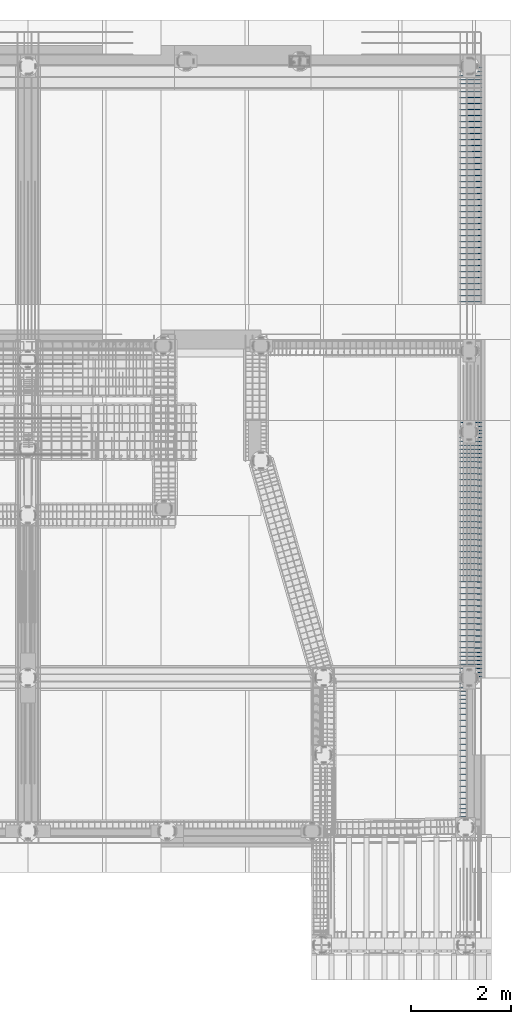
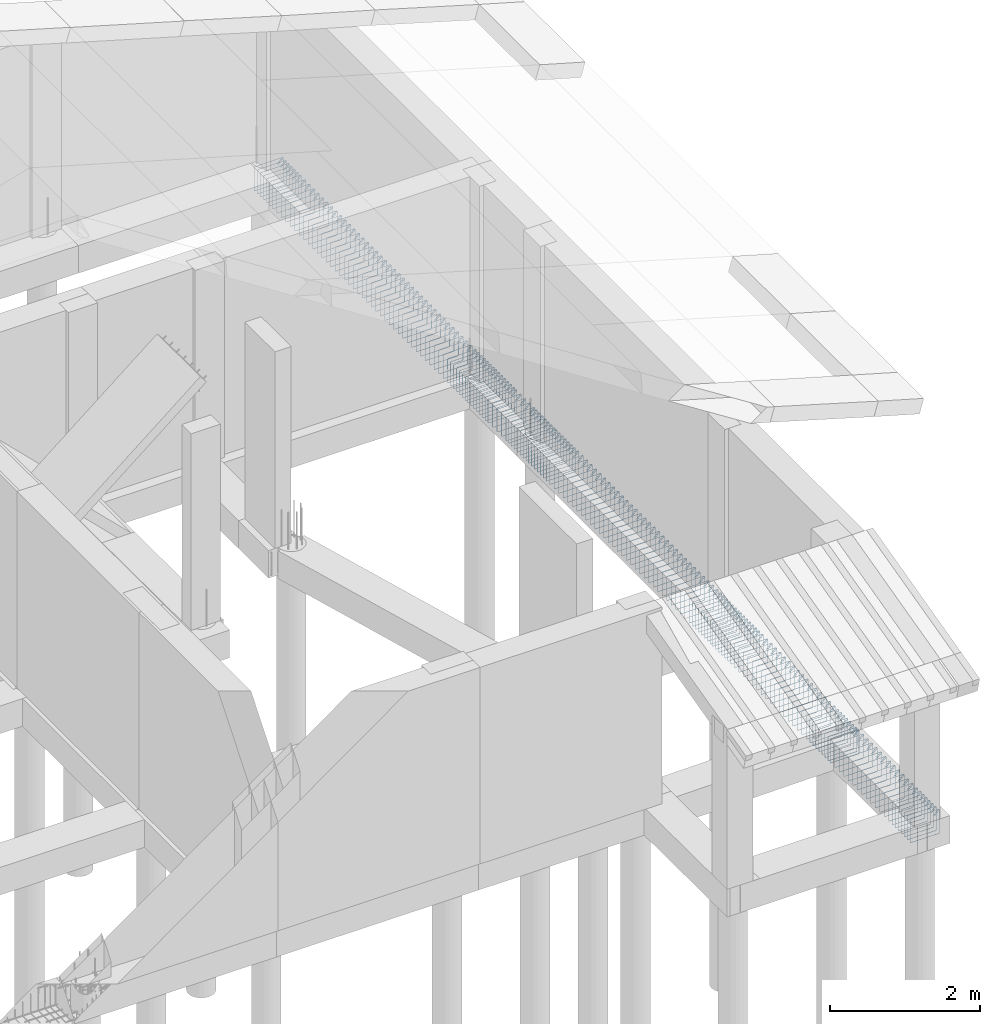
# One storey, part 11 of 13: 1 reinforcing bar.
"""IFC4 building model written with IfcOpenShell, lengths in metres."""

from ifc_helpers import new_model, entity, si_unit, origin_with_axes, place, context, project, spatial, source, transform, mapped, element, save


model = new_model("IFC4")

# Units and contexts
model_context = context("Model", 3, precision=1e-05, world=origin_with_axes())
ifc_project = project(units=[si_unit("LENGTHUNIT", "METRE"), si_unit("AREAUNIT", "SQUARE_METRE"), si_unit("VOLUMEUNIT", "CUBIC_METRE"), si_unit("MASSUNIT", "GRAM", prefix="KILO"), si_unit("TIMEUNIT", "SECOND"), si_unit("PLANEANGLEUNIT", "RADIAN"), si_unit("SOLIDANGLEUNIT", "STERADIAN"), si_unit("THERMODYNAMICTEMPERATUREUNIT", "DEGREE_CELSIUS")], contexts=[model_context])

# Site, building, storey
placement_1 = place(None, origin_with_axes())
site = spatial("IfcSite", under=ifc_project, at=placement_1, Name="Italia", CompositionType="ELEMENT")
building = spatial("IfcBuilding", under=site, at=placement_1, Name="Villa", CompositionType="ELEMENT")
storey = spatial("IfcBuildingStorey", under=building, at=placement_1, Name="Storey 0", CompositionType="ELEMENT", Elevation=0.0)

# Reinforcing bar
shared_shape = source(origin_with_axes(), model_context, "Body", "AdvancedSweptSolid", [
    entity("IfcSweptDiskSolid", entity("IfcIndexedPolyCurve", entity("IfcCartesianPointList3D", [[18.0903, 0.242884, -0.120711], [18.1581, 0.242427, -0.0529289], [18.161, 0.242391, -0.0458579], [18.161, 0.242358, -0.039], [18.1602, 0.24234, -0.0351732], [18.1581, 0.242321, -0.0319289], [18.1548, 0.242302, -0.0297612], [18.151, 0.242284, -0.029], [17.729, 0.240274, -0.029], [17.7252, 0.240255, -0.0297612], [17.7219, 0.240237, -0.0319289], [17.7198, 0.240218, -0.0351732], [17.719, 0.2402, -0.039], [17.719, 0.238428, -0.411], [17.7198, 0.238409, -0.414827], [17.7219, 0.238391, -0.418071], [17.7252, 0.238372, -0.420239], [17.729, 0.238354, -0.421], [18.151, 0.236344, -0.421], [18.1548, 0.236325, -0.420239], [18.1581, 0.236307, -0.418071], [18.1602, 0.236288, -0.414827], [18.161, 0.23627, -0.411], [18.161, 0.234498, -0.039], [18.1602, 0.234479, -0.0351732], [18.1581, 0.234461, -0.0319289], [18.1548, 0.234442, -0.0297612], [18.151, 0.234424, -0.029], [18.1441, 0.234391, -0.029], [18.1371, 0.234354, -0.0319289], [18.0693, 0.233898, -0.0997114]]), [entity("IfcLineIndex", [1, 2]), entity("IfcLineIndex", [2, 3]), entity("IfcLineIndex", [3, 4]), entity("IfcLineIndex", [4, 5]), entity("IfcLineIndex", [5, 6]), entity("IfcLineIndex", [6, 7]), entity("IfcLineIndex", [7, 8]), entity("IfcLineIndex", [8, 9]), entity("IfcLineIndex", [9, 10]), entity("IfcLineIndex", [10, 11]), entity("IfcLineIndex", [11, 12]), entity("IfcLineIndex", [12, 13]), entity("IfcLineIndex", [13, 14]), entity("IfcLineIndex", [14, 15]), entity("IfcLineIndex", [15, 16]), entity("IfcLineIndex", [16, 17]), entity("IfcLineIndex", [17, 18]), entity("IfcLineIndex", [18, 19]), entity("IfcLineIndex", [19, 20]), entity("IfcLineIndex", [20, 21]), entity("IfcLineIndex", [21, 22]), entity("IfcLineIndex", [22, 23]), entity("IfcLineIndex", [23, 24]), entity("IfcLineIndex", [24, 25]), entity("IfcLineIndex", [25, 26]), entity("IfcLineIndex", [26, 27]), entity("IfcLineIndex", [27, 28]), entity("IfcLineIndex", [28, 29]), entity("IfcLineIndex", [29, 30]), entity("IfcLineIndex", [30, 31])], False), 0.004),
])
placement_2 = place(placement_1, origin_with_axes())
reinforcing_bar_placement = place(placement_2, origin_with_axes())
element("IfcReinforcingBar", 1, at=reinforcing_bar_placement, inside=storey, BarLength=1.8868, CrossSectionArea=5.0265e-05, NominalDiameter=0.008, context=model_context, shape_type="MappedRepresentation", body=[
    mapped(shared_shape, transform((0.0, 17.4978, 1.71363e-05), x_axis=(1.0, -3.70892e-05, 0.0), y_axis=(3.70883e-05, 1.0, -4.69772e-05), z_axis=(0.0, 4.69772e-05, 1.0), scale=1.0)),
    mapped(shared_shape, transform((4.95911e-05, 11.3236, -6.58333e-05), x_axis=(1.0, 0.000193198, 0.0), y_axis=(-0.000193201, 1.0, 0.000183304), z_axis=(0.0, -0.000183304, 1.0), scale=1.0)),
    mapped(shared_shape, transform((4.95911e-05, 11.4036, -6.58333e-05), x_axis=(1.0, 0.000193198, 0.0), y_axis=(-0.000193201, 1.0, 0.000183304), z_axis=(0.0, -0.000183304, 1.0), scale=1.0)),
    mapped(shared_shape, transform((4.95911e-05, 11.4836, -6.58333e-05), x_axis=(1.0, 0.000193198, 0.0), y_axis=(-0.000193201, 1.0, 0.000183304), z_axis=(0.0, -0.000183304, 1.0), scale=1.0)),
    mapped(shared_shape, transform((4.95911e-05, 11.5636, -6.58333e-05), x_axis=(1.0, 0.000193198, 0.0), y_axis=(-0.000193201, 1.0, 0.000183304), z_axis=(0.0, -0.000183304, 1.0), scale=1.0)),
    mapped(shared_shape, transform((4.95911e-05, 11.2626, -6.58333e-05), x_axis=(1.0, 0.000193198, 0.0), y_axis=(-0.000193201, 1.0, 0.000183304), z_axis=(0.0, -0.000183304, 1.0), scale=1.0)),
    mapped(shared_shape, transform((4.95911e-05, 8.8951, -6.58333e-05), x_axis=(1.0, 0.000193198, 0.0), y_axis=(-0.000193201, 1.0, 0.000183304), z_axis=(0.0, -0.000183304, 1.0), scale=1.0)),
    mapped(shared_shape, transform((4.95911e-05, 9.0151, -6.58333e-05), x_axis=(1.0, 0.000193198, 0.0), y_axis=(-0.000193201, 1.0, 0.000183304), z_axis=(0.0, -0.000183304, 1.0), scale=1.0)),
    mapped(shared_shape, transform((4.95911e-05, 11.0226, -6.58333e-05), x_axis=(1.0, 0.000193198, 0.0), y_axis=(-0.000193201, 1.0, 0.000183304), z_axis=(0.0, -0.000183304, 1.0), scale=1.0)),
    mapped(shared_shape, transform((4.95911e-05, 11.1426, -6.58333e-05), x_axis=(1.0, 0.000193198, 0.0), y_axis=(-0.000193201, 1.0, 0.000183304), z_axis=(0.0, -0.000183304, 1.0), scale=1.0)),
    mapped(shared_shape, transform((4.95911e-05, 11.6436, -6.58333e-05), x_axis=(1.0, 0.000193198, 0.0), y_axis=(-0.000193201, 1.0, 0.000183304), z_axis=(0.0, -0.000183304, 1.0), scale=1.0)),
    mapped(shared_shape, transform((4.95911e-05, 12.1016, -6.58333e-05), x_axis=(1.0, 0.000193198, 0.0), y_axis=(-0.000193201, 1.0, 0.000183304), z_axis=(0.0, -0.000183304, 1.0), scale=1.0)),
    mapped(shared_shape, transform((4.95911e-05, 12.1816, -6.58333e-05), x_axis=(1.0, 0.000193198, 0.0), y_axis=(-0.000193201, 1.0, 0.000183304), z_axis=(0.0, -0.000183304, 1.0), scale=1.0)),
    mapped(shared_shape, transform((4.95911e-05, 12.2616, -6.58333e-05), x_axis=(1.0, 0.000193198, 0.0), y_axis=(-0.000193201, 1.0, 0.000183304), z_axis=(0.0, -0.000183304, 1.0), scale=1.0)),
    mapped(shared_shape, transform((4.95911e-05, 12.3416, -6.58333e-05), x_axis=(1.0, 0.000193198, 0.0), y_axis=(-0.000193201, 1.0, 0.000183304), z_axis=(0.0, -0.000183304, 1.0), scale=1.0)),
    mapped(shared_shape, transform((4.95911e-05, 12.0216, -6.58333e-05), x_axis=(1.0, 0.000193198, 0.0), y_axis=(-0.000193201, 1.0, 0.000183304), z_axis=(0.0, -0.000183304, 1.0), scale=1.0)),
    mapped(shared_shape, transform((4.95911e-05, 11.7236, -6.58333e-05), x_axis=(1.0, 0.000193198, 0.0), y_axis=(-0.000193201, 1.0, 0.000183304), z_axis=(0.0, -0.000183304, 1.0), scale=1.0)),
    mapped(shared_shape, transform((4.95911e-05, 11.8036, -6.58333e-05), x_axis=(1.0, 0.000193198, 0.0), y_axis=(-0.000193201, 1.0, 0.000183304), z_axis=(0.0, -0.000183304, 1.0), scale=1.0)),
    mapped(shared_shape, transform((4.95911e-05, 11.8616, -6.58333e-05), x_axis=(1.0, 0.000193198, 0.0), y_axis=(-0.000193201, 1.0, 0.000183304), z_axis=(0.0, -0.000183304, 1.0), scale=1.0)),
    mapped(shared_shape, transform((4.95911e-05, 11.9416, -6.58333e-05), x_axis=(1.0, 0.000193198, 0.0), y_axis=(-0.000193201, 1.0, 0.000183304), z_axis=(0.0, -0.000183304, 1.0), scale=1.0)),
    mapped(shared_shape, transform((4.95911e-05, 12.4576, -6.58333e-05), x_axis=(1.0, 0.000193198, 0.0), y_axis=(-0.000193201, 1.0, 0.000183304), z_axis=(0.0, -0.000183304, 1.0), scale=1.0)),
    mapped(shared_shape, transform((4.95911e-05, 9.3751, -6.58333e-05), x_axis=(1.0, 0.000193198, 0.0), y_axis=(-0.000193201, 1.0, 0.000183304), z_axis=(0.0, -0.000183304, 1.0), scale=1.0)),
    mapped(shared_shape, transform((4.95911e-05, 9.4951, -6.58333e-05), x_axis=(1.0, 0.000193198, 0.0), y_axis=(-0.000193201, 1.0, 0.000183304), z_axis=(0.0, -0.000183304, 1.0), scale=1.0)),
    mapped(shared_shape, transform((4.95911e-05, 9.6151, -6.58333e-05), x_axis=(1.0, 0.000193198, 0.0), y_axis=(-0.000193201, 1.0, 0.000183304), z_axis=(0.0, -0.000183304, 1.0), scale=1.0)),
    mapped(shared_shape, transform((4.95911e-05, 9.7036, -6.58333e-05), x_axis=(1.0, 0.000193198, 0.0), y_axis=(-0.000193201, 1.0, 0.000183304), z_axis=(0.0, -0.000183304, 1.0), scale=1.0)),
    mapped(shared_shape, transform((4.95911e-05, 9.2551, -6.58333e-05), x_axis=(1.0, 0.000193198, 0.0), y_axis=(-0.000193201, 1.0, 0.000183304), z_axis=(0.0, -0.000183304, 1.0), scale=1.0)),
    mapped(shared_shape, transform((4.95911e-05, 10.7216, -6.58333e-05), x_axis=(1.0, 0.000193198, 0.0), y_axis=(-0.000193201, 1.0, 0.000183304), z_axis=(0.0, -0.000183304, 1.0), scale=1.0)),
    mapped(shared_shape, transform((4.95911e-05, 10.7826, -6.58333e-05), x_axis=(1.0, 0.000193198, 0.0), y_axis=(-0.000193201, 1.0, 0.000183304), z_axis=(0.0, -0.000183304, 1.0), scale=1.0)),
    mapped(shared_shape, transform((4.95911e-05, 10.9026, -6.58333e-05), x_axis=(1.0, 0.000193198, 0.0), y_axis=(-0.000193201, 1.0, 0.000183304), z_axis=(0.0, -0.000183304, 1.0), scale=1.0)),
    mapped(shared_shape, transform((4.95911e-05, 9.1351, -6.58333e-05), x_axis=(1.0, 0.000193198, 0.0), y_axis=(-0.000193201, 1.0, 0.000183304), z_axis=(0.0, -0.000183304, 1.0), scale=1.0)),
    mapped(shared_shape, transform((4.95911e-05, 9.7836, -6.58333e-05), x_axis=(1.0, 0.000193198, 0.0), y_axis=(-0.000193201, 1.0, 0.000183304), z_axis=(0.0, -0.000183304, 1.0), scale=1.0)),
    mapped(shared_shape, transform((4.95911e-05, 10.2416, -6.58333e-05), x_axis=(1.0, 0.000193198, 0.0), y_axis=(-0.000193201, 1.0, 0.000183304), z_axis=(0.0, -0.000183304, 1.0), scale=1.0)),
    mapped(shared_shape, transform((4.95911e-05, 10.3216, -6.58333e-05), x_axis=(1.0, 0.000193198, 0.0), y_axis=(-0.000193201, 1.0, 0.000183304), z_axis=(0.0, -0.000183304, 1.0), scale=1.0)),
    mapped(shared_shape, transform((4.95911e-05, 10.4016, -6.58333e-05), x_axis=(1.0, 0.000193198, 0.0), y_axis=(-0.000193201, 1.0, 0.000183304), z_axis=(0.0, -0.000183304, 1.0), scale=1.0)),
    mapped(shared_shape, transform((4.95911e-05, 10.4816, -6.58333e-05), x_axis=(1.0, 0.000193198, 0.0), y_axis=(-0.000193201, 1.0, 0.000183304), z_axis=(0.0, -0.000183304, 1.0), scale=1.0)),
    mapped(shared_shape, transform((4.95911e-05, 10.1836, -6.58333e-05), x_axis=(1.0, 0.000193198, 0.0), y_axis=(-0.000193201, 1.0, 0.000183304), z_axis=(0.0, -0.000183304, 1.0), scale=1.0)),
    mapped(shared_shape, transform((4.95911e-05, 9.8636, -6.58333e-05), x_axis=(1.0, 0.000193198, 0.0), y_axis=(-0.000193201, 1.0, 0.000183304), z_axis=(0.0, -0.000183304, 1.0), scale=1.0)),
    mapped(shared_shape, transform((4.95911e-05, 9.9436, -6.58333e-05), x_axis=(1.0, 0.000193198, 0.0), y_axis=(-0.000193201, 1.0, 0.000183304), z_axis=(0.0, -0.000183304, 1.0), scale=1.0)),
    mapped(shared_shape, transform((4.95911e-05, 10.0236, -6.58333e-05), x_axis=(1.0, 0.000193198, 0.0), y_axis=(-0.000193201, 1.0, 0.000183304), z_axis=(0.0, -0.000183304, 1.0), scale=1.0)),
    mapped(shared_shape, transform((4.95911e-05, 10.1036, -6.58333e-05), x_axis=(1.0, 0.000193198, 0.0), y_axis=(-0.000193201, 1.0, 0.000183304), z_axis=(0.0, -0.000183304, 1.0), scale=1.0)),
    mapped(shared_shape, transform((4.95911e-05, 10.5616, -6.58333e-05), x_axis=(1.0, 0.000193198, 0.0), y_axis=(-0.000193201, 1.0, 0.000183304), z_axis=(0.0, -0.000183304, 1.0), scale=1.0)),
    mapped(shared_shape, transform((4.95911e-05, 15.5776, -6.58333e-05), x_axis=(1.0, 0.000193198, 0.0), y_axis=(-0.000193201, 1.0, 0.000183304), z_axis=(0.0, -0.000183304, 1.0), scale=1.0)),
    mapped(shared_shape, transform((4.95911e-05, 15.6976, -6.58333e-05), x_axis=(1.0, 0.000193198, 0.0), y_axis=(-0.000193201, 1.0, 0.000183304), z_axis=(0.0, -0.000183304, 1.0), scale=1.0)),
    mapped(shared_shape, transform((0.0, 15.8218, 1.71363e-05), x_axis=(1.0, -3.70892e-05, 0.0), y_axis=(3.70883e-05, 1.0, -4.69772e-05), z_axis=(0.0, 4.69772e-05, 1.0), scale=1.0)),
    mapped(shared_shape, transform((0.0, 15.9418, 1.71363e-05), x_axis=(1.0, -3.70892e-05, 0.0), y_axis=(3.70883e-05, 1.0, -4.69772e-05), z_axis=(0.0, 4.69772e-05, 1.0), scale=1.0)),
    mapped(shared_shape, transform((4.95911e-05, 15.4576, -6.58333e-05), x_axis=(1.0, 0.000193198, 0.0), y_axis=(-0.000193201, 1.0, 0.000183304), z_axis=(0.0, -0.000183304, 1.0), scale=1.0)),
    mapped(shared_shape, transform((4.95911e-05, 10.6416, -6.58333e-05), x_axis=(1.0, 0.000193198, 0.0), y_axis=(-0.000193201, 1.0, 0.000183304), z_axis=(0.0, -0.000183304, 1.0), scale=1.0)),
    mapped(shared_shape, transform((4.95911e-05, 12.5776, -6.58333e-05), x_axis=(1.0, 0.000193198, 0.0), y_axis=(-0.000193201, 1.0, 0.000183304), z_axis=(0.0, -0.000183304, 1.0), scale=1.0)),
    mapped(shared_shape, transform((4.95911e-05, 12.6976, -6.58333e-05), x_axis=(1.0, 0.000193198, 0.0), y_axis=(-0.000193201, 1.0, 0.000183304), z_axis=(0.0, -0.000183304, 1.0), scale=1.0)),
    mapped(shared_shape, transform((4.95911e-05, 12.8176, -6.58333e-05), x_axis=(1.0, 0.000193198, 0.0), y_axis=(-0.000193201, 1.0, 0.000183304), z_axis=(0.0, -0.000183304, 1.0), scale=1.0)),
    mapped(shared_shape, transform((0.0, 16.0618, 1.71363e-05), x_axis=(1.0, -3.70892e-05, 0.0), y_axis=(3.70883e-05, 1.0, -4.69772e-05), z_axis=(0.0, 4.69772e-05, 1.0), scale=1.0)),
    mapped(shared_shape, transform((0.0, 16.7818, 1.71363e-05), x_axis=(1.0, -3.70892e-05, 0.0), y_axis=(3.70883e-05, 1.0, -4.69772e-05), z_axis=(0.0, 4.69772e-05, 1.0), scale=1.0)),
    mapped(shared_shape, transform((0.0, 16.9018, 1.71363e-05), x_axis=(1.0, -3.70892e-05, 0.0), y_axis=(3.70883e-05, 1.0, -4.69772e-05), z_axis=(0.0, 4.69772e-05, 1.0), scale=1.0)),
    mapped(shared_shape, transform((0.0, 17.0178, 1.71363e-05), x_axis=(1.0, -3.70892e-05, 0.0), y_axis=(3.70883e-05, 1.0, -4.69772e-05), z_axis=(0.0, 4.69772e-05, 1.0), scale=1.0)),
    mapped(shared_shape, transform((0.0, 17.0978, 1.71363e-05), x_axis=(1.0, -3.70892e-05, 0.0), y_axis=(3.70883e-05, 1.0, -4.69772e-05), z_axis=(0.0, 4.69772e-05, 1.0), scale=1.0)),
    mapped(shared_shape, transform((0.0, 16.6618, 1.71363e-05), x_axis=(1.0, -3.70892e-05, 0.0), y_axis=(3.70883e-05, 1.0, -4.69772e-05), z_axis=(0.0, 4.69772e-05, 1.0), scale=1.0)),
    mapped(shared_shape, transform((0.0, 16.1818, 1.71363e-05), x_axis=(1.0, -3.70892e-05, 0.0), y_axis=(3.70883e-05, 1.0, -4.69772e-05), z_axis=(0.0, 4.69772e-05, 1.0), scale=1.0)),
    mapped(shared_shape, transform((0.0, 16.3018, 1.71363e-05), x_axis=(1.0, -3.70892e-05, 0.0), y_axis=(3.70883e-05, 1.0, -4.69772e-05), z_axis=(0.0, 4.69772e-05, 1.0), scale=1.0)),
    mapped(shared_shape, transform((0.0, 16.4218, 1.71363e-05), x_axis=(1.0, -3.70892e-05, 0.0), y_axis=(3.70883e-05, 1.0, -4.69772e-05), z_axis=(0.0, 4.69772e-05, 1.0), scale=1.0)),
    mapped(shared_shape, transform((0.0, 16.5418, 1.71363e-05), x_axis=(1.0, -3.70892e-05, 0.0), y_axis=(3.70883e-05, 1.0, -4.69772e-05), z_axis=(0.0, 4.69772e-05, 1.0), scale=1.0)),
    mapped(shared_shape, transform((0.0, 17.1778, 1.71363e-05), x_axis=(1.0, -3.70892e-05, 0.0), y_axis=(3.70883e-05, 1.0, -4.69772e-05), z_axis=(0.0, 4.69772e-05, 1.0), scale=1.0)),
    mapped(shared_shape, transform((4.95911e-05, 12.9376, -6.58333e-05), x_axis=(1.0, 0.000193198, 0.0), y_axis=(-0.000193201, 1.0, 0.000183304), z_axis=(0.0, -0.000183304, 1.0), scale=1.0)),
    mapped(shared_shape, transform((4.95911e-05, 13.0576, -6.58333e-05), x_axis=(1.0, 0.000193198, 0.0), y_axis=(-0.000193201, 1.0, 0.000183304), z_axis=(0.0, -0.000183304, 1.0), scale=1.0)),
    mapped(shared_shape, transform((4.95911e-05, 13.1776, -6.58333e-05), x_axis=(1.0, 0.000193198, 0.0), y_axis=(-0.000193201, 1.0, 0.000183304), z_axis=(0.0, -0.000183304, 1.0), scale=1.0)),
    mapped(shared_shape, transform((4.95911e-05, 13.2976, -6.58333e-05), x_axis=(1.0, 0.000193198, 0.0), y_axis=(-0.000193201, 1.0, 0.000183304), z_axis=(0.0, -0.000183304, 1.0), scale=1.0)),
    mapped(shared_shape, transform((4.95911e-05, 15.3376, -6.58333e-05), x_axis=(1.0, 0.000193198, 0.0), y_axis=(-0.000193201, 1.0, 0.000183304), z_axis=(0.0, -0.000183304, 1.0), scale=1.0)),
    mapped(shared_shape, transform((0.0, 17.2578, 1.71363e-05), x_axis=(1.0, -3.70892e-05, 0.0), y_axis=(3.70883e-05, 1.0, -4.69772e-05), z_axis=(0.0, 4.69772e-05, 1.0), scale=1.0)),
    mapped(shared_shape, transform((0.0, 17.3378, 1.71363e-05), x_axis=(1.0, -3.70892e-05, 0.0), y_axis=(3.70883e-05, 1.0, -4.69772e-05), z_axis=(0.0, 4.69772e-05, 1.0), scale=1.0)),
    mapped(shared_shape, transform((4.95911e-05, 15.0976, -6.58333e-05), x_axis=(1.0, 0.000193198, 0.0), y_axis=(-0.000193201, 1.0, 0.000183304), z_axis=(0.0, -0.000183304, 1.0), scale=1.0)),
    mapped(shared_shape, transform((4.95911e-05, 15.2176, -6.58333e-05), x_axis=(1.0, 0.000193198, 0.0), y_axis=(-0.000193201, 1.0, 0.000183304), z_axis=(0.0, -0.000183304, 1.0), scale=1.0)),
    mapped(shared_shape, transform((4.95911e-05, 13.4176, -6.58333e-05), x_axis=(1.0, 0.000193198, 0.0), y_axis=(-0.000193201, 1.0, 0.000183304), z_axis=(0.0, -0.000183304, 1.0), scale=1.0)),
    mapped(shared_shape, transform((4.95911e-05, 14.1376, -6.58333e-05), x_axis=(1.0, 0.000193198, 0.0), y_axis=(-0.000193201, 1.0, 0.000183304), z_axis=(0.0, -0.000183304, 1.0), scale=1.0)),
    mapped(shared_shape, transform((4.95911e-05, 14.2576, -6.58333e-05), x_axis=(1.0, 0.000193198, 0.0), y_axis=(-0.000193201, 1.0, 0.000183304), z_axis=(0.0, -0.000183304, 1.0), scale=1.0)),
    mapped(shared_shape, transform((4.95911e-05, 14.3776, -6.58333e-05), x_axis=(1.0, 0.000193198, 0.0), y_axis=(-0.000193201, 1.0, 0.000183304), z_axis=(0.0, -0.000183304, 1.0), scale=1.0)),
    mapped(shared_shape, transform((4.95911e-05, 14.4976, -6.58333e-05), x_axis=(1.0, 0.000193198, 0.0), y_axis=(-0.000193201, 1.0, 0.000183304), z_axis=(0.0, -0.000183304, 1.0), scale=1.0)),
    mapped(shared_shape, transform((4.95911e-05, 14.0176, -6.58333e-05), x_axis=(1.0, 0.000193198, 0.0), y_axis=(-0.000193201, 1.0, 0.000183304), z_axis=(0.0, -0.000183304, 1.0), scale=1.0)),
    mapped(shared_shape, transform((4.95911e-05, 13.5376, -6.58333e-05), x_axis=(1.0, 0.000193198, 0.0), y_axis=(-0.000193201, 1.0, 0.000183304), z_axis=(0.0, -0.000183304, 1.0), scale=1.0)),
    mapped(shared_shape, transform((4.95911e-05, 13.6576, -6.58333e-05), x_axis=(1.0, 0.000193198, 0.0), y_axis=(-0.000193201, 1.0, 0.000183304), z_axis=(0.0, -0.000183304, 1.0), scale=1.0)),
    mapped(shared_shape, transform((4.95911e-05, 13.7776, -6.58333e-05), x_axis=(1.0, 0.000193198, 0.0), y_axis=(-0.000193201, 1.0, 0.000183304), z_axis=(0.0, -0.000183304, 1.0), scale=1.0)),
    mapped(shared_shape, transform((4.95911e-05, 13.8976, -6.58333e-05), x_axis=(1.0, 0.000193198, 0.0), y_axis=(-0.000193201, 1.0, 0.000183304), z_axis=(0.0, -0.000183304, 1.0), scale=1.0)),
    mapped(shared_shape, transform((4.95911e-05, 14.6176, -6.58333e-05), x_axis=(1.0, 0.000193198, 0.0), y_axis=(-0.000193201, 1.0, 0.000183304), z_axis=(0.0, -0.000183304, 1.0), scale=1.0)),
    mapped(shared_shape, transform((0.0, 0.0800724, 0.0), x_axis=(1.0, 0.0, 0.0), y_axis=(0.0, 1.0, 0.0), z_axis=(0.0, 0.0, 1.0), scale=1.0)),
    mapped(shared_shape, transform((0.0, 2.20007, 0.0), x_axis=(1.0, 0.0, 0.0), y_axis=(0.0, 1.0, 0.0), z_axis=(0.0, 0.0, 1.0), scale=1.0)),
    mapped(shared_shape, transform((0.0, 2.28007, 0.0), x_axis=(1.0, 0.0, 0.0), y_axis=(0.0, 1.0, 0.0), z_axis=(0.0, 0.0, 1.0), scale=1.0)),
    mapped(shared_shape, transform((0.0, 2.36007, 0.0), x_axis=(1.0, 0.0, 0.0), y_axis=(0.0, 1.0, 0.0), z_axis=(0.0, 0.0, 1.0), scale=1.0)),
    mapped(shared_shape, transform((4.95911e-05, 8.7751, -6.58333e-05), x_axis=(1.0, 0.000193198, 0.0), y_axis=(-0.000193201, 1.0, 0.000183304), z_axis=(0.0, -0.000183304, 1.0), scale=1.0)),
    mapped(shared_shape, transform((4.95911e-05, 14.7376, -6.58333e-05), x_axis=(1.0, 0.000193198, 0.0), y_axis=(-0.000193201, 1.0, 0.000183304), z_axis=(0.0, -0.000183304, 1.0), scale=1.0)),
    mapped(shared_shape, transform((4.95911e-05, 14.8576, -6.58333e-05), x_axis=(1.0, 0.000193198, 0.0), y_axis=(-0.000193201, 1.0, 0.000183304), z_axis=(0.0, -0.000183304, 1.0), scale=1.0)),
    mapped(shared_shape, transform((4.95911e-05, 14.9776, -6.58333e-05), x_axis=(1.0, 0.000193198, 0.0), y_axis=(-0.000193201, 1.0, 0.000183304), z_axis=(0.0, -0.000183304, 1.0), scale=1.0)),
    mapped(shared_shape, transform((0.0, 17.4178, 1.71363e-05), x_axis=(1.0, -3.70892e-05, 0.0), y_axis=(3.70883e-05, 1.0, -4.69772e-05), z_axis=(0.0, 4.69772e-05, 1.0), scale=1.0)),
    mapped(shared_shape, transform((0.0, 2.44007, 0.0), x_axis=(1.0, 0.0, 0.0), y_axis=(0.0, 1.0, 0.0), z_axis=(0.0, 0.0, 1.0), scale=1.0)),
    mapped(shared_shape, transform((0.0, 3.01607, 0.0), x_axis=(1.0, 0.0, 0.0), y_axis=(0.0, 1.0, 0.0), z_axis=(0.0, 0.0, 1.0), scale=1.0)),
    mapped(shared_shape, transform((0.0, 3.13607, 0.0), x_axis=(1.0, 0.0, 0.0), y_axis=(0.0, 1.0, 0.0), z_axis=(0.0, 0.0, 1.0), scale=1.0)),
    mapped(shared_shape, transform((0.0, 3.25607, 0.0), x_axis=(1.0, 0.0, 0.0), y_axis=(0.0, 1.0, 0.0), z_axis=(0.0, 0.0, 1.0), scale=1.0)),
    mapped(shared_shape, transform((0.0, 3.37607, 0.0), x_axis=(1.0, 0.0, 0.0), y_axis=(0.0, 1.0, 0.0), z_axis=(0.0, 0.0, 1.0), scale=1.0)),
    mapped(shared_shape, transform((0.0, 2.89607, 0.0), x_axis=(1.0, 0.0, 0.0), y_axis=(0.0, 1.0, 0.0), z_axis=(0.0, 0.0, 1.0), scale=1.0)),
    mapped(shared_shape, transform((0.0, 2.52007, 0.0), x_axis=(1.0, 0.0, 0.0), y_axis=(0.0, 1.0, 0.0), z_axis=(0.0, 0.0, 1.0), scale=1.0)),
    mapped(shared_shape, transform((0.0, 2.60007, 0.0), x_axis=(1.0, 0.0, 0.0), y_axis=(0.0, 1.0, 0.0), z_axis=(0.0, 0.0, 1.0), scale=1.0)),
    mapped(shared_shape, transform((0.0, 2.68007, 0.0), x_axis=(1.0, 0.0, 0.0), y_axis=(0.0, 1.0, 0.0), z_axis=(0.0, 0.0, 1.0), scale=1.0)),
    mapped(shared_shape, transform((0.0, 2.77607, 0.0), x_axis=(1.0, 0.0, 0.0), y_axis=(0.0, 1.0, 0.0), z_axis=(0.0, 0.0, 1.0), scale=1.0)),
    mapped(shared_shape, transform((0.0, 3.49607, 0.0), x_axis=(1.0, 0.0, 0.0), y_axis=(0.0, 1.0, 0.0), z_axis=(0.0, 0.0, 1.0), scale=1.0)),
    mapped(shared_shape, transform((0.0, 2.14207, 0.0), x_axis=(1.0, 0.0, 0.0), y_axis=(0.0, 1.0, 0.0), z_axis=(0.0, 0.0, 1.0), scale=1.0)),
    mapped(shared_shape, transform((0.0, 2.19487, 0.0), x_axis=(1.0, 0.0, 0.0), y_axis=(0.0, 1.0, 0.0), z_axis=(0.0, 0.0, 1.0), scale=1.0)),
    mapped(shared_shape, transform((0.0, 0.160072, 0.0), x_axis=(1.0, 0.0, 0.0), y_axis=(0.0, 1.0, 0.0), z_axis=(0.0, 0.0, 1.0), scale=1.0)),
    mapped(shared_shape, transform((0.0, 0.240072, 0.0), x_axis=(1.0, 0.0, 0.0), y_axis=(0.0, 1.0, 0.0), z_axis=(0.0, 0.0, 1.0), scale=1.0)),
    mapped(shared_shape, transform((0.0, 2.13687, 0.0), x_axis=(1.0, 0.0, 0.0), y_axis=(0.0, 1.0, 0.0), z_axis=(0.0, 0.0, 1.0), scale=1.0)),
    mapped(shared_shape, transform((0.0, 3.61607, 0.0), x_axis=(1.0, 0.0, 0.0), y_axis=(0.0, 1.0, 0.0), z_axis=(0.0, 0.0, 1.0), scale=1.0)),
    mapped(shared_shape, transform((0.0, 3.73607, 0.0), x_axis=(1.0, 0.0, 0.0), y_axis=(0.0, 1.0, 0.0), z_axis=(0.0, 0.0, 1.0), scale=1.0)),
    mapped(shared_shape, transform((-1.14441e-05, 3.85723, 2.19047e-05), x_axis=(1.0, -6.10962e-05, 0.0), y_axis=(6.10934e-05, 1.0, -5.69164e-05), z_axis=(0.0, 5.69164e-05, 1.0), scale=1.0)),
    mapped(shared_shape, transform((-1.14441e-05, 3.97723, 2.19047e-05), x_axis=(1.0, -6.10962e-05, 0.0), y_axis=(6.10934e-05, 1.0, -5.69164e-05), z_axis=(0.0, 5.69164e-05, 1.0), scale=1.0)),
    mapped(shared_shape, transform((0.0, 0.320217, 0.0), x_axis=(1.0, -1.19171e-05, 0.0), y_axis=(1.19127e-05, 1.0, -1.12567e-05), z_axis=(0.0, 1.12567e-05, 1.0), scale=1.0)),
    mapped(shared_shape, transform((0.0, 0.93682, 0.0), x_axis=(1.0, 0.0, 0.0), y_axis=(0.0, 1.0, 0.0), z_axis=(0.0, 0.0, 1.0), scale=1.0)),
    mapped(shared_shape, transform((0.0, 1.05682, 0.0), x_axis=(1.0, 0.0, 0.0), y_axis=(0.0, 1.0, 0.0), z_axis=(0.0, 0.0, 1.0), scale=1.0)),
    mapped(shared_shape, transform((0.0, 1.17682, 0.0), x_axis=(1.0, 0.0, 0.0), y_axis=(0.0, 1.0, 0.0), z_axis=(0.0, 0.0, 1.0), scale=1.0)),
    mapped(shared_shape, transform((0.0, 1.29682, 0.0), x_axis=(1.0, 0.0, 0.0), y_axis=(0.0, 1.0, 0.0), z_axis=(0.0, 0.0, 1.0), scale=1.0)),
    mapped(shared_shape, transform((0.0, 0.81682, 0.0), x_axis=(1.0, 0.0, 0.0), y_axis=(0.0, 1.0, 0.0), z_axis=(0.0, 0.0, 1.0), scale=1.0)),
    mapped(shared_shape, transform((0.0, 0.400217, 0.0), x_axis=(1.0, -1.19171e-05, 0.0), y_axis=(1.19127e-05, 1.0, -1.12567e-05), z_axis=(0.0, 1.12567e-05, 1.0), scale=1.0)),
    mapped(shared_shape, transform((0.0, 0.480217, 0.0), x_axis=(1.0, -1.19171e-05, 0.0), y_axis=(1.19127e-05, 1.0, -1.12567e-05), z_axis=(0.0, 1.12567e-05, 1.0), scale=1.0)),
    mapped(shared_shape, transform((0.0, 0.577136, 0.0), x_axis=(1.0, -1.19171e-05, 0.0), y_axis=(1.19127e-05, 1.0, -1.12567e-05), z_axis=(0.0, 1.12567e-05, 1.0), scale=1.0)),
    mapped(shared_shape, transform((0.0, 0.697136, 0.0), x_axis=(1.0, -1.19171e-05, 0.0), y_axis=(1.19127e-05, 1.0, -1.12567e-05), z_axis=(0.0, 1.12567e-05, 1.0), scale=1.0)),
    mapped(shared_shape, transform((0.0, 1.41682, 0.0), x_axis=(1.0, 0.0, 0.0), y_axis=(0.0, 1.0, 0.0), z_axis=(0.0, 0.0, 1.0), scale=1.0)),
    mapped(shared_shape, transform((-1.14441e-05, 4.09723, 2.19047e-05), x_axis=(1.0, -6.10962e-05, 0.0), y_axis=(6.10934e-05, 1.0, -5.69164e-05), z_axis=(0.0, 5.69164e-05, 1.0), scale=1.0)),
    mapped(shared_shape, transform((-1.14441e-05, 4.21723, 2.19047e-05), x_axis=(1.0, -6.10962e-05, 0.0), y_axis=(6.10934e-05, 1.0, -5.69164e-05), z_axis=(0.0, 5.69164e-05, 1.0), scale=1.0)),
    mapped(shared_shape, transform((-1.14441e-05, 4.33723, 2.19047e-05), x_axis=(1.0, -6.10962e-05, 0.0), y_axis=(6.10934e-05, 1.0, -5.69164e-05), z_axis=(0.0, 5.69164e-05, 1.0), scale=1.0)),
    mapped(shared_shape, transform((-1.14441e-05, 6.37973, 2.19047e-05), x_axis=(1.0, -6.10962e-05, 0.0), y_axis=(6.10934e-05, 1.0, -5.69164e-05), z_axis=(0.0, 5.69164e-05, 1.0), scale=1.0)),
    mapped(shared_shape, transform((0.0, 2.01687, 0.0), x_axis=(1.0, 0.0, 0.0), y_axis=(0.0, 1.0, 0.0), z_axis=(0.0, 0.0, 1.0), scale=1.0)),
    mapped(shared_shape, transform((0.0, 1.53682, 0.0), x_axis=(1.0, 0.0, 0.0), y_axis=(0.0, 1.0, 0.0), z_axis=(0.0, 0.0, 1.0), scale=1.0)),
    mapped(shared_shape, transform((0.0, 1.65682, 0.0), x_axis=(1.0, 0.0, 0.0), y_axis=(0.0, 1.0, 0.0), z_axis=(0.0, 0.0, 1.0), scale=1.0)),
    mapped(shared_shape, transform((0.0, 1.77687, 0.0), x_axis=(1.0, 0.0, 0.0), y_axis=(0.0, 1.0, 0.0), z_axis=(0.0, 0.0, 1.0), scale=1.0)),
    mapped(shared_shape, transform((0.0, 1.89687, 0.0), x_axis=(1.0, 0.0, 0.0), y_axis=(0.0, 1.0, 0.0), z_axis=(0.0, 0.0, 1.0), scale=1.0)),
    mapped(shared_shape, transform((-1.14441e-05, 6.49973, 2.19047e-05), x_axis=(1.0, -6.10962e-05, 0.0), y_axis=(6.10934e-05, 1.0, -5.69164e-05), z_axis=(0.0, 5.69164e-05, 1.0), scale=1.0)),
    mapped(shared_shape, transform((-1.14441e-05, 7.21973, 2.19047e-05), x_axis=(1.0, -6.10962e-05, 0.0), y_axis=(6.10934e-05, 1.0, -5.69164e-05), z_axis=(0.0, 5.69164e-05, 1.0), scale=1.0)),
    mapped(shared_shape, transform((-1.14441e-05, 7.33973, 2.19047e-05), x_axis=(1.0, -6.10962e-05, 0.0), y_axis=(6.10934e-05, 1.0, -5.69164e-05), z_axis=(0.0, 5.69164e-05, 1.0), scale=1.0)),
    mapped(shared_shape, transform((-1.14441e-05, 7.45973, 2.19047e-05), x_axis=(1.0, -6.10962e-05, 0.0), y_axis=(6.10934e-05, 1.0, -5.69164e-05), z_axis=(0.0, 5.69164e-05, 1.0), scale=1.0)),
    mapped(shared_shape, transform((-1.14441e-05, 7.57973, 2.19047e-05), x_axis=(1.0, -6.10962e-05, 0.0), y_axis=(6.10934e-05, 1.0, -5.69164e-05), z_axis=(0.0, 5.69164e-05, 1.0), scale=1.0)),
    mapped(shared_shape, transform((-1.14441e-05, 7.09973, 2.19047e-05), x_axis=(1.0, -6.10962e-05, 0.0), y_axis=(6.10934e-05, 1.0, -5.69164e-05), z_axis=(0.0, 5.69164e-05, 1.0), scale=1.0)),
    mapped(shared_shape, transform((-1.14441e-05, 6.61973, 2.19047e-05), x_axis=(1.0, -6.10962e-05, 0.0), y_axis=(6.10934e-05, 1.0, -5.69164e-05), z_axis=(0.0, 5.69164e-05, 1.0), scale=1.0)),
    mapped(shared_shape, transform((-1.14441e-05, 6.73973, 2.19047e-05), x_axis=(1.0, -6.10962e-05, 0.0), y_axis=(6.10934e-05, 1.0, -5.69164e-05), z_axis=(0.0, 5.69164e-05, 1.0), scale=1.0)),
    mapped(shared_shape, transform((-1.14441e-05, 6.85973, 2.19047e-05), x_axis=(1.0, -6.10962e-05, 0.0), y_axis=(6.10934e-05, 1.0, -5.69164e-05), z_axis=(0.0, 5.69164e-05, 1.0), scale=1.0)),
    mapped(shared_shape, transform((-1.14441e-05, 6.97973, 2.19047e-05), x_axis=(1.0, -6.10962e-05, 0.0), y_axis=(6.10934e-05, 1.0, -5.69164e-05), z_axis=(0.0, 5.69164e-05, 1.0), scale=1.0)),
    mapped(shared_shape, transform((-1.14441e-05, 7.69973, 2.19047e-05), x_axis=(1.0, -6.10962e-05, 0.0), y_axis=(6.10934e-05, 1.0, -5.69164e-05), z_axis=(0.0, 5.69164e-05, 1.0), scale=1.0)),
    mapped(shared_shape, transform((4.95911e-05, 8.4151, -6.58333e-05), x_axis=(1.0, 0.000193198, 0.0), y_axis=(-0.000193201, 1.0, 0.000183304), z_axis=(0.0, -0.000183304, 1.0), scale=1.0)),
    mapped(shared_shape, transform((-1.14441e-05, 6.01973, 2.19047e-05), x_axis=(1.0, -6.10962e-05, 0.0), y_axis=(6.10934e-05, 1.0, -5.69164e-05), z_axis=(0.0, 5.69164e-05, 1.0), scale=1.0)),
    mapped(shared_shape, transform((-1.14441e-05, 6.13973, 2.19047e-05), x_axis=(1.0, -6.10962e-05, 0.0), y_axis=(6.10934e-05, 1.0, -5.69164e-05), z_axis=(0.0, 5.69164e-05, 1.0), scale=1.0)),
    mapped(shared_shape, transform((-1.14441e-05, 6.25973, 2.19047e-05), x_axis=(1.0, -6.10962e-05, 0.0), y_axis=(6.10934e-05, 1.0, -5.69164e-05), z_axis=(0.0, 5.69164e-05, 1.0), scale=1.0)),
    mapped(shared_shape, transform((4.95911e-05, 8.2951, -6.58333e-05), x_axis=(1.0, 0.000193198, 0.0), y_axis=(-0.000193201, 1.0, 0.000183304), z_axis=(0.0, -0.000183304, 1.0), scale=1.0)),
    mapped(shared_shape, transform((4.95911e-05, 7.8151, -6.58333e-05), x_axis=(1.0, 0.000193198, 0.0), y_axis=(-0.000193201, 1.0, 0.000183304), z_axis=(0.0, -0.000183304, 1.0), scale=1.0)),
    mapped(shared_shape, transform((4.95911e-05, 7.9351, -6.58333e-05), x_axis=(1.0, 0.000193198, 0.0), y_axis=(-0.000193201, 1.0, 0.000183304), z_axis=(0.0, -0.000183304, 1.0), scale=1.0)),
    mapped(shared_shape, transform((4.95911e-05, 8.0551, -6.58333e-05), x_axis=(1.0, 0.000193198, 0.0), y_axis=(-0.000193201, 1.0, 0.000183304), z_axis=(0.0, -0.000183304, 1.0), scale=1.0)),
    mapped(shared_shape, transform((4.95911e-05, 8.1751, -6.58333e-05), x_axis=(1.0, 0.000193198, 0.0), y_axis=(-0.000193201, 1.0, 0.000183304), z_axis=(0.0, -0.000183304, 1.0), scale=1.0)),
    mapped(shared_shape, transform((-1.14441e-05, 4.45723, 2.19047e-05), x_axis=(1.0, -6.10962e-05, 0.0), y_axis=(6.10934e-05, 1.0, -5.69164e-05), z_axis=(0.0, 5.69164e-05, 1.0), scale=1.0)),
    mapped(shared_shape, transform((-1.14441e-05, 5.03323, 2.19047e-05), x_axis=(1.0, -6.10962e-05, 0.0), y_axis=(6.10934e-05, 1.0, -5.69164e-05), z_axis=(0.0, 5.69164e-05, 1.0), scale=1.0)),
    mapped(shared_shape, transform((-1.14441e-05, 5.11323, 2.19047e-05), x_axis=(1.0, -6.10962e-05, 0.0), y_axis=(6.10934e-05, 1.0, -5.69164e-05), z_axis=(0.0, 5.69164e-05, 1.0), scale=1.0)),
    mapped(shared_shape, transform((-1.14441e-05, 5.19323, 2.19047e-05), x_axis=(1.0, -6.10962e-05, 0.0), y_axis=(6.10934e-05, 1.0, -5.69164e-05), z_axis=(0.0, 5.69164e-05, 1.0), scale=1.0)),
    mapped(shared_shape, transform((-1.14441e-05, 5.27323, 2.19047e-05), x_axis=(1.0, -6.10962e-05, 0.0), y_axis=(6.10934e-05, 1.0, -5.69164e-05), z_axis=(0.0, 5.69164e-05, 1.0), scale=1.0)),
    mapped(shared_shape, transform((-1.14441e-05, 4.95323, 2.19047e-05), x_axis=(1.0, -6.10962e-05, 0.0), y_axis=(6.10934e-05, 1.0, -5.69164e-05), z_axis=(0.0, 5.69164e-05, 1.0), scale=1.0)),
    mapped(shared_shape, transform((-1.14441e-05, 4.57723, 2.19047e-05), x_axis=(1.0, -6.10962e-05, 0.0), y_axis=(6.10934e-05, 1.0, -5.69164e-05), z_axis=(0.0, 5.69164e-05, 1.0), scale=1.0)),
    mapped(shared_shape, transform((-1.14441e-05, 4.69723, 2.19047e-05), x_axis=(1.0, -6.10962e-05, 0.0), y_axis=(6.10934e-05, 1.0, -5.69164e-05), z_axis=(0.0, 5.69164e-05, 1.0), scale=1.0)),
    mapped(shared_shape, transform((-1.14441e-05, 4.79323, 2.19047e-05), x_axis=(1.0, -6.10962e-05, 0.0), y_axis=(6.10934e-05, 1.0, -5.69164e-05), z_axis=(0.0, 5.69164e-05, 1.0), scale=1.0)),
    mapped(shared_shape, transform((-1.14441e-05, 4.87323, 2.19047e-05), x_axis=(1.0, -6.10962e-05, 0.0), y_axis=(6.10934e-05, 1.0, -5.69164e-05), z_axis=(0.0, 5.69164e-05, 1.0), scale=1.0)),
    mapped(shared_shape, transform((-1.14441e-05, 5.33123, 2.19047e-05), x_axis=(1.0, -6.10962e-05, 0.0), y_axis=(6.10934e-05, 1.0, -5.69164e-05), z_axis=(0.0, 5.69164e-05, 1.0), scale=1.0)),
    mapped(shared_shape, transform((-1.14441e-05, 5.81123, 2.19047e-05), x_axis=(1.0, -6.10962e-05, 0.0), y_axis=(6.10934e-05, 1.0, -5.69164e-05), z_axis=(0.0, 5.69164e-05, 1.0), scale=1.0)),
    mapped(shared_shape, transform((-1.14441e-05, 5.89973, 2.19047e-05), x_axis=(1.0, -6.10962e-05, 0.0), y_axis=(6.10934e-05, 1.0, -5.69164e-05), z_axis=(0.0, 5.69164e-05, 1.0), scale=1.0)),
    mapped(shared_shape, transform((4.95911e-05, 8.5351, -6.58333e-05), x_axis=(1.0, 0.000193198, 0.0), y_axis=(-0.000193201, 1.0, 0.000183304), z_axis=(0.0, -0.000183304, 1.0), scale=1.0)),
    mapped(shared_shape, transform((4.95911e-05, 8.6551, -6.58333e-05), x_axis=(1.0, 0.000193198, 0.0), y_axis=(-0.000193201, 1.0, 0.000183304), z_axis=(0.0, -0.000183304, 1.0), scale=1.0)),
    mapped(shared_shape, transform((-1.14441e-05, 5.73123, 2.19047e-05), x_axis=(1.0, -6.10962e-05, 0.0), y_axis=(6.10934e-05, 1.0, -5.69164e-05), z_axis=(0.0, 5.69164e-05, 1.0), scale=1.0)),
    mapped(shared_shape, transform((-1.14441e-05, 5.41123, 2.19047e-05), x_axis=(1.0, -6.10962e-05, 0.0), y_axis=(6.10934e-05, 1.0, -5.69164e-05), z_axis=(0.0, 5.69164e-05, 1.0), scale=1.0)),
    mapped(shared_shape, transform((-1.14441e-05, 5.49123, 2.19047e-05), x_axis=(1.0, -6.10962e-05, 0.0), y_axis=(6.10934e-05, 1.0, -5.69164e-05), z_axis=(0.0, 5.69164e-05, 1.0), scale=1.0)),
    mapped(shared_shape, transform((-1.14441e-05, 5.57123, 2.19047e-05), x_axis=(1.0, -6.10962e-05, 0.0), y_axis=(6.10934e-05, 1.0, -5.69164e-05), z_axis=(0.0, 5.69164e-05, 1.0), scale=1.0)),
    mapped(shared_shape, transform((-1.14441e-05, 5.65123, 2.19047e-05), x_axis=(1.0, -6.10962e-05, 0.0), y_axis=(6.10934e-05, 1.0, -5.69164e-05), z_axis=(0.0, 5.69164e-05, 1.0), scale=1.0)),
    mapped(shared_shape, transform((0.0, 0.0, 0.0), x_axis=(1.0, 0.0, 0.0), y_axis=(0.0, 1.0, 0.0), z_axis=(0.0, 0.0, 1.0), scale=1.0)),
])

save(model, "model.ifc")
